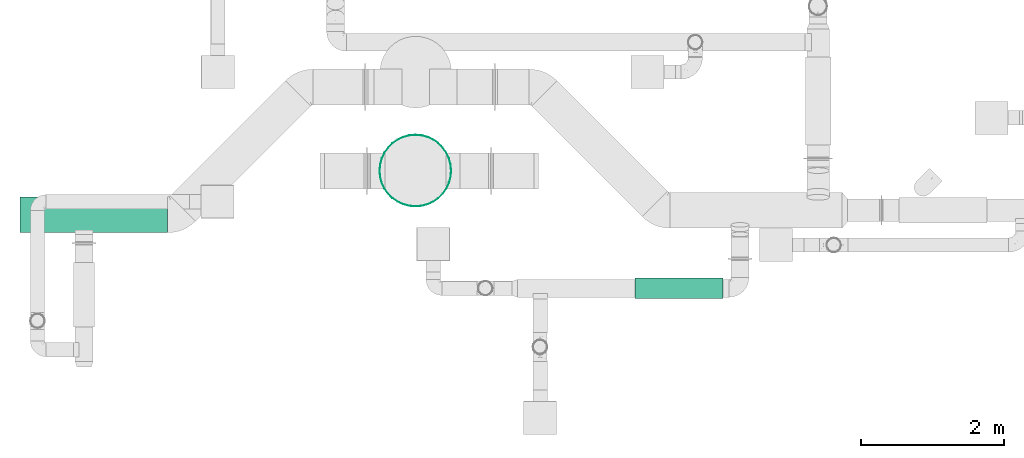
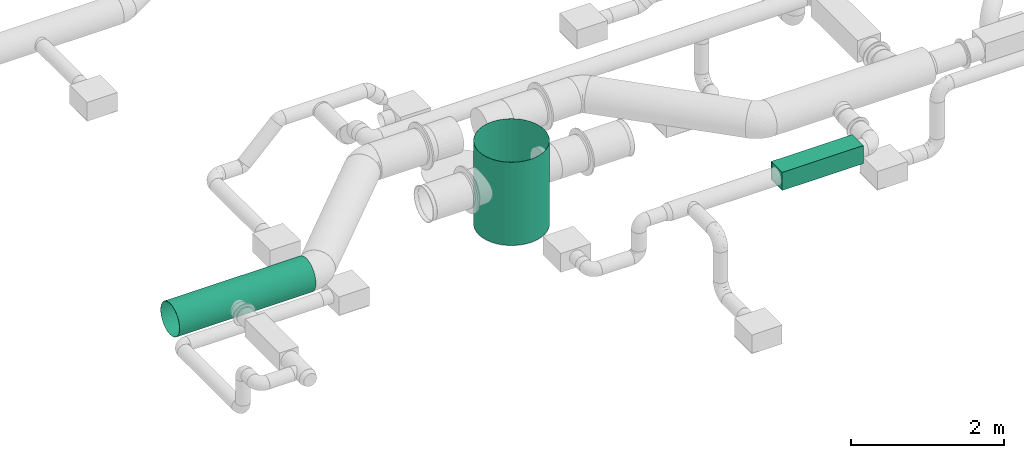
# One storey, part 26 of 31: 2 flow segments, 1 flow treatment device.
"""IFC2X3 building model written with IfcOpenShell, lengths in millimetres."""

import ifcopenshell
import ifcopenshell.guid

model = None  # the IFC model being written
_history = None  # IfcOwnerHistory: only IFC2X3 demands one
_inside = {}  # id of a spatial element -> (the spatial element, [elements in it])
_under = {}  # id of a project, library or spatial element -> (it, [spatial elements below it])
_declared = {}  # id of a project -> (the project, [libraries it declares])
_typed = {}  # id of a type object -> (the type object, [elements of that type])
_made_of = {}  # id of a material, layer set ... -> (it, [elements and type objects made of it])


def new_model(schema):
    """Start an empty IFC model of exactly this schema.

    Asked for "IFC4X3", IfcOpenShell would pick the latest addendum, in which some entities
    have other attributes; the version numbers below select the first issue.
    IFC2X3 requires an IfcOwnerHistory on every rooted entity: one is made here for all.
    """
    global model, _history
    if schema == "IFC4X3":
        model = ifcopenshell.file(schema_version=(4, 3, 0, 0))
    else:
        model = ifcopenshell.file(schema=schema)
    _inside.clear()
    _under.clear()
    _declared.clear()
    _typed.clear()
    _made_of.clear()
    _history = None
    if model.schema == "IFC2X3":
        org = make("IfcOrganization", Name="unknown")
        user = make(
            "IfcPersonAndOrganization",
            ThePerson=make("IfcPerson", FamilyName="unknown"),
            TheOrganization=org,
        )
        app = make(
            "IfcApplication",
            ApplicationDeveloper=org,
            Version="unknown",
            ApplicationFullName="unknown",
            ApplicationIdentifier="unknown",
        )
        _history = make(
            "IfcOwnerHistory",
            OwningUser=user,
            OwningApplication=app,
            ChangeAction="ADDED",
            CreationDate=0,
        )
    return model


def make(cls, **values):
    """One entity of the class cls with the attributes given. An attribute that is None is left unset."""
    return model.create_entity(
        cls, **{name: value for name, value in values.items() if value is not None}
    )


def entity(cls, *values):
    """Any entity or typed value of the class cls, its attributes in the order of the schema. None: left unset."""
    e = model.create_entity(cls)
    for i, value in enumerate(values):
        if value is not None:
            e[i] = value
    return e


def rooted(cls, **values):
    """An entity with a GlobalId (a new one), such as an element, a storey or a relation."""
    return make(cls, GlobalId=ifcopenshell.guid.new(), OwnerHistory=_history, **values)


def si_unit(unit_type, name, prefix=None):
    """IfcSIUnit, for example si_unit("LENGTHUNIT", "METRE", prefix="MILLI")."""
    return make("IfcSIUnit", UnitType=unit_type, Prefix=prefix, Name=name)


def converted_unit(unit_type, name, factor, base, dimensions=None, offset=None):
    """IfcConversionBasedUnit, such as the inch: factor (a typed value) times the base unit."""
    return make(
        "IfcConversionBasedUnit"
        if offset is None
        else "IfcConversionBasedUnitWithOffset",
        ConversionOffset=offset,
        Dimensions=None
        if dimensions is None
        else entity("IfcDimensionalExponents", *dimensions),
        UnitType=unit_type,
        Name=name,
        ConversionFactor=make(
            "IfcMeasureWithUnit", ValueComponent=factor, UnitComponent=base
        ),
    )


def derived_unit(unit_type, elements):
    """IfcDerivedUnit: a product of units, each with its exponent."""
    return make(
        "IfcDerivedUnit",
        Elements=[
            make("IfcDerivedUnitElement", Unit=unit, Exponent=power)
            for unit, power in elements
        ],
        UnitType=unit_type,
    )


def assignment(units):
    """IfcUnitAssignment: the units of a project."""
    return None if units is None else make("IfcUnitAssignment", Units=units)


def point(xyz):
    """IfcCartesianPoint."""
    return None if xyz is None else make("IfcCartesianPoint", Coordinates=xyz)


def direction(xyz):
    """IfcDirection."""
    return None if xyz is None else make("IfcDirection", DirectionRatios=xyz)


def frame(location, z_axis=None, x_axis=None):
    """IfcAxis2Placement3D, a coordinate frame: its origin and axes. An axis left out is left unset."""
    return make(
        "IfcAxis2Placement3D",
        Location=point(location),
        Axis=direction(z_axis),
        RefDirection=direction(x_axis),
    )


def origin_with_axes():
    """The frame at (0, 0, 0) with the z axis (0, 0, 1) and the x axis (1, 0, 0) written out."""
    return frame((0.0, 0.0, 0.0), z_axis=(0.0, 0.0, 1.0), x_axis=(1.0, 0.0, 0.0))


def place(relative_to, where):
    """IfcLocalPlacement: puts the frame where relative to a parent placement (None: the world)."""
    return make(
        "IfcLocalPlacement", PlacementRelTo=relative_to, RelativePlacement=where
    )


def context(
    kind, dimensions, precision=None, world=None, true_north=None, identifier=None
):
    """IfcGeometricRepresentationContext, for example the 3D "Model" context."""
    return make(
        "IfcGeometricRepresentationContext",
        ContextIdentifier=identifier,
        ContextType=kind,
        CoordinateSpaceDimension=dimensions,
        Precision=precision,
        WorldCoordinateSystem=world,
        TrueNorth=true_north,
    )


def subcontext(parent, identifier, kind, view, scale=None):
    """IfcGeometricRepresentationSubContext, for example "Body" below "Model"."""
    return make(
        "IfcGeometricRepresentationSubContext",
        ContextIdentifier=identifier,
        ContextType=kind,
        ParentContext=parent,
        TargetScale=scale,
        TargetView=view,
    )


def project(units=None, contexts=None):
    """IfcProject with its units and contexts."""
    return rooted(
        "IfcProject",
        Name="project",
        RepresentationContexts=contexts,
        UnitsInContext=assignment(units),
    )


def spatial(cls, under=None, at=None, **own):
    """A site, building, storey or space (cls), placed at a placement, below another one or the project."""
    s = rooted(cls, ObjectPlacement=at, **own)
    if under is not None:
        _under.setdefault(under.id(), (under, []))[1].append(s)
    return s


def faces_of(points, faces, orient=None, outer=None):
    """IfcFace entities. A face is a list of loops; a loop is a list of indices into points, from 0.

    orient and outer hold one flag for each loop. By default every Orientation is true, the
    first loop of a face is its IfcFaceOuterBound and the others are IfcFaceBound.
    """
    made = []
    for i, loops in enumerate(faces):
        bounds = []
        for j, loop in enumerate(loops):
            is_outer = j == 0 if outer is None else outer[i][j]
            bounds.append(
                make(
                    "IfcFaceOuterBound" if is_outer else "IfcFaceBound",
                    Bound=make("IfcPolyLoop", Polygon=[points[k] for k in loop]),
                    Orientation=True if orient is None else orient[i][j],
                )
            )
        made.append(make("IfcFace", Bounds=bounds))
    return made


def open_shell(faces, orient=None, outer=None):
    """The faces of one IfcOpenShell. surface_model builds it on its shared points."""
    return ("IfcOpenShell", faces, orient, outer)


def faceted_brep(points, faces, orient=None, outer=None, voids=None):
    """IfcFacetedBrep: a solid bounded by flat faces; with voids (closed shells), ...WithVoids."""
    shared = [point(p) for p in points]
    hull = make("IfcClosedShell", CfsFaces=faces_of(shared, faces, orient, outer))
    if voids is None:
        return make("IfcFacetedBrep", Outer=hull)
    return make(
        "IfcFacetedBrepWithVoids",
        Outer=hull,
        Voids=[
            make(cls, CfsFaces=faces_of(shared, fs, o, b)) for cls, fs, o, b in voids
        ],
    )


def surface_model(cls, points, shells):
    """IfcFaceBasedSurfaceModel or IfcShellBasedSurfaceModel (cls): surfaces that need not close."""
    shared = [point(p) for p in points]
    made = [make(c, CfsFaces=faces_of(shared, fs, o, b)) for c, fs, o, b in shells]
    if cls == "IfcFaceBasedSurfaceModel":
        return make(cls, FbsmFaces=made)
    return make(cls, SbsmBoundary=made)


def shape(context_of_items, identifier, shape_type, items):
    """IfcShapeRepresentation: the items that make up one representation, for example the "Body"."""
    return make(
        "IfcShapeRepresentation",
        ContextOfItems=context_of_items,
        RepresentationIdentifier=identifier,
        RepresentationType=shape_type,
        Items=items,
    )


def source(mapping_origin, context_of_items, identifier, shape_type, items):
    """IfcRepresentationMap: a shape defined once, which mapped items show again and again."""
    return make(
        "IfcRepresentationMap",
        MappingOrigin=mapping_origin,
        MappedRepresentation=shape(context_of_items, identifier, shape_type, items),
    )


def transform(
    local_origin,
    x_axis=None,
    y_axis=None,
    z_axis=None,
    scale=None,
    scale2=None,
    scale3=None,
    uniform=True,
):
    """IfcCartesianTransformationOperator3D, or its non-uniform kind. x_axis, y_axis, z_axis: its Axis1, 2, 3."""
    if uniform:
        return make(
            "IfcCartesianTransformationOperator3D",
            Axis1=direction(x_axis),
            Axis2=direction(y_axis),
            LocalOrigin=point(local_origin),
            Scale=scale,
            Axis3=direction(z_axis),
        )
    return make(
        "IfcCartesianTransformationOperator3DnonUniform",
        Axis1=direction(x_axis),
        Axis2=direction(y_axis),
        LocalOrigin=point(local_origin),
        Scale=scale,
        Axis3=direction(z_axis),
        Scale2=scale2,
        Scale3=scale3,
    )


def mapped(mapping_source, mapping_target):
    """IfcMappedItem: shows the shape of a source again, moved by a transform."""
    return make(
        "IfcMappedItem", MappingSource=mapping_source, MappingTarget=mapping_target
    )


def made_of(thing, what):
    """Note that an element or type object is made of a material, layer set ...; save() writes the relation."""
    if what is not None:
        _made_of.setdefault(what.id(), (what, []))[1].append(thing)
    return thing


def type_object(cls, material=None, **own):
    """A type object (cls), such as IfcWallType, which elements share."""
    return made_of(rooted(cls, **own), material)


def element(
    cls,
    number,
    at=None,
    inside=None,
    cuts=None,
    type_object=None,
    material=None,
    context=None,
    identifier="Body",
    shape_type=None,
    held_by="IfcProductDefinitionShape",
    body=None,
    shapes=None,
    **own,
):
    """One element of the class cls, such as IfcWall. Its Tag is "e" and its number.

    at: its placement. inside: the storey or other place that contains it. cuts: it is an
    opening in that element (IfcRelVoidsElement). A single representation is given by context,
    identifier, shape_type and body (its items); several are given by shapes. held_by: the class
    of the entity that holds the representations. save() writes the other relations.
    """
    e = rooted(cls, Tag="e%d" % number, ObjectPlacement=at, **own)
    if body is not None:
        shapes = [shape(context, identifier, shape_type, body)]
    if shapes is not None:
        e.Representation = make(held_by, Representations=shapes)
    if inside is not None:
        _inside.setdefault(inside.id(), (inside, []))[1].append(e)
    if cuts is not None:
        rooted(
            "IfcRelVoidsElement", RelatingBuildingElement=cuts, RelatedOpeningElement=e
        )
    if type_object is not None:
        _typed.setdefault(type_object.id(), (type_object, []))[1].append(e)
    return made_of(e, material)


def aggregate(whole, parts):
    """IfcRelAggregates: a whole, such as a stair, and the parts it consists of."""
    return rooted("IfcRelAggregates", RelatingObject=whole, RelatedObjects=parts)


def save(model, path):
    """Write the relations noted so far, then the file.

    IfcRelAggregates (storeys below a building ...), IfcRelContainedInSpatialStructure (elements
    in a storey), IfcRelDefinesByType, IfcRelAssociatesMaterial and IfcRelDeclares: one each for
    every whole, place, type object, material and project.
    """
    for whole, parts in _under.values():
        aggregate(whole, parts)
    for where, things in _inside.values():
        rooted(
            "IfcRelContainedInSpatialStructure",
            RelatedElements=things,
            RelatingStructure=where,
        )
    for kind, things in _typed.values():
        rooted("IfcRelDefinesByType", RelatedObjects=things, RelatingType=kind)
    for what, things in _made_of.values():
        rooted("IfcRelAssociatesMaterial", RelatedObjects=things, RelatingMaterial=what)
    for by, libraries in _declared.values():
        rooted("IfcRelDeclares", RelatingContext=by, RelatedDefinitions=libraries)
    model.write(path)


model = new_model("IFC2X3")

# Units and contexts
model_context = context("Model", 3, precision=0.01, world=frame((0.0, 4.29681676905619e-09, 0.0)), true_north=direction((4.01073788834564e-13, 1.0)))
plan_context = context("Plan", 3, precision=0.01, world=frame((0.0, 4.29681676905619e-09, 0.0)), true_north=direction((4.01073788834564e-13, 1.0)))
body_context = subcontext(model_context, "Body", "Model", "MODEL_VIEW")
ifc_project = project(units=[converted_unit("PLANEANGLEUNIT", "DEGREE", entity("IfcPositiveLengthMeasure", 0.0174532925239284), si_unit("PLANEANGLEUNIT", "RADIAN"), dimensions=[0, 0, 0, 0, 0, 0, 0]), si_unit("AREAUNIT", "SQUARE_METRE"), si_unit("LENGTHUNIT", "METRE", prefix="MILLI"), si_unit("MASSUNIT", "GRAM", prefix="KILO"), si_unit("POWERUNIT", "WATT"), si_unit("PRESSUREUNIT", "PASCAL", prefix="KILO"), si_unit("FORCEUNIT", "NEWTON", prefix="KILO"), si_unit("ELECTRICVOLTAGEUNIT", "VOLT"), si_unit("ELECTRICCURRENTUNIT", "AMPERE"), si_unit("THERMODYNAMICTEMPERATUREUNIT", "DEGREE_CELSIUS"), si_unit("TIMEUNIT", "SECOND"), si_unit("VOLUMEUNIT", "CUBIC_METRE"), derived_unit("LINEARVELOCITYUNIT", [(si_unit("LENGTHUNIT", "METRE"), 1), (si_unit("TIMEUNIT", "SECOND"), -1)]), derived_unit("VOLUMETRICFLOWRATEUNIT", [(si_unit("VOLUMEUNIT", "CUBIC_METRE"), 1), (si_unit("TIMEUNIT", "SECOND"), -1)]), derived_unit("THERMALTRANSMITTANCEUNIT", [(si_unit("POWERUNIT", "WATT"), 1), (si_unit("THERMODYNAMICTEMPERATUREUNIT", "KELVIN"), -1), (si_unit("AREAUNIT", "SQUARE_METRE"), -1)]), derived_unit("SOUNDPRESSUREUNIT", [(si_unit("PRESSUREUNIT", "PASCAL"), 1)])], contexts=[model_context, plan_context])

# Site, building, storey
site_placement = place(None, frame((0.0, -4.29681676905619e-09, 0.0), z_axis=(0.0, 0.0, 1.0), x_axis=(1.0, 0.0, 0.0)))
site = spatial("IfcSite", under=ifc_project, at=site_placement, CompositionType="ELEMENT")
building_placement = place(site_placement, frame((0.0, 4.29681676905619e-09, 0.0), z_axis=(0.0, 0.0, 1.0), x_axis=(1.0, 0.0, 0.0)))
building = spatial("IfcBuilding", under=site, at=building_placement, Name="mc-building", CompositionType="ELEMENT")
storey_placement = place(building_placement, frame((0.0, 0.0, 210900.0), z_axis=(0.0, 0.0, 1.0), x_axis=(1.0, 0.0, 0.0)))
storey = spatial("IfcBuildingStorey", under=building, at=storey_placement, Name="Nivå F", CompositionType="ELEMENT", Elevation=210900.0)

# Flow treatment device
duct_silencer_type = type_object("IfcDuctSilencerType", Name="LKR-250-1200", PredefinedType="ROUND")
shared_shape = source(origin_with_axes(), body_context, "Body", "SurfaceModel", [
    surface_model("IfcShellBasedSurfaceModel", [(-615.00003, -145.0, -145.1), (-615.00003, 145.0, -145.1), (615.00003, 145.0, -145.1), (615.00003, -145.0, -145.1), (615.00003, -145.0, -144.9), (615.00003, 145.0, -144.9), (-615.00003, 145.0, -144.9), (-615.00003, -145.0, -144.9), (-615.00003, -145.0, 144.9), (-615.00003, 145.0, 144.9), (615.00003, 145.0, 144.9), (615.00003, -145.0, 144.9), (615.00003, -145.0, 145.1), (615.00003, 145.0, 145.1), (-615.00003, 145.0, 145.1), (-615.00003, -145.0, 145.1), (-615.00003, 144.9, -145.0), (615.00003, 144.9, -145.0), (615.00003, 144.9, 145.0), (-615.00003, 144.9, 145.0), (-615.00003, 145.1, 145.0), (615.00003, 145.1, 145.0), (615.00003, 145.1, -145.0), (-615.00003, 145.1, -145.0), (-615.00003, -145.1, -145.0), (615.00003, -145.1, -145.0), (615.00003, -145.1, 145.0), (-615.00003, -145.1, 145.0), (-615.00003, -144.9, 145.0), (615.00003, -144.9, 145.0), (615.00003, -144.9, -145.0), (-615.00003, -144.9, -145.0), (604.9, 144.89999, 144.9), (604.9, 144.89999, -144.89999), (604.9, -144.9, -144.89999), (604.9, -144.9, 144.9), (605.09998, -144.9, 144.9), (605.09998, -144.9, -144.89999), (605.09998, 144.89999, 144.9), (605.09998, 144.89999, -144.89999), (-605.09998, 144.89999, 144.9), (-605.09998, 144.89999, -144.89999), (-605.09998, -144.9, -144.89999), (-605.09998, -144.9, 144.9), (-604.9, -144.9, 144.9), (-604.9, -144.9, -144.89999), (-604.9, 144.89999, 144.9), (-604.9, 144.89999, -144.89999)], [open_shell([[[0, 1, 2]], [[2, 3, 0]], [[4, 5, 6]], [[6, 7, 4]], [[1, 0, 7]], [[7, 6, 1]], [[0, 3, 7]], [[4, 7, 3]], [[3, 2, 5]], [[5, 4, 3]], [[2, 1, 5]], [[6, 5, 1]], [[8, 9, 10]], [[10, 11, 8]], [[12, 13, 14]], [[14, 15, 12]], [[9, 8, 15]], [[15, 14, 9]], [[8, 11, 15]], [[12, 15, 11]], [[11, 10, 13]], [[13, 12, 11]], [[10, 9, 13]], [[14, 13, 9]], [[16, 17, 18]], [[18, 19, 16]], [[20, 21, 22]], [[22, 23, 20]], [[18, 17, 21]], [[22, 21, 17]], [[19, 18, 20]], [[21, 20, 18]], [[16, 19, 23]], [[20, 23, 19]], [[17, 16, 22]], [[23, 22, 16]], [[24, 25, 26]], [[26, 27, 24]], [[28, 29, 30]], [[30, 31, 28]], [[26, 25, 29]], [[30, 29, 25]], [[27, 26, 28]], [[29, 28, 26]], [[24, 27, 31]], [[28, 31, 27]], [[25, 24, 30]], [[31, 30, 24]], [[32, 33, 34]], [[34, 35, 32]], [[36, 37, 38]], [[39, 38, 37]], [[34, 33, 37]], [[39, 37, 33]], [[35, 34, 37]], [[37, 36, 35]], [[32, 35, 36]], [[36, 38, 32]], [[33, 32, 39]], [[38, 39, 32]], [[40, 41, 42]], [[42, 43, 40]], [[44, 45, 46]], [[47, 46, 45]], [[42, 41, 45]], [[47, 45, 41]], [[43, 42, 45]], [[45, 44, 43]], [[40, 43, 44]], [[44, 46, 40]], [[41, 40, 47]], [[46, 47, 40]]])]),
])
flow_treatment_device_placement = place(storey_placement, frame((723639.83655, 437405.213, 3855.0), z_axis=(0.0, 0.0, 1.0), x_axis=(-1.0, 0.0, 0.0)))
element("IfcFlowTreatmentDevice", 1, at=flow_treatment_device_placement, inside=storey, type_object=duct_silencer_type, Name="LKR-250-1200", context=body_context, shape_type="MappedRepresentation", body=[
    mapped(shared_shape, transform((0.0, 0.0, 0.0), scale=1.0)),
])

# Flow segments
duct_segment_type = type_object("IfcDuctSegmentType", Name="KK001T - Spiro kanaler, Forsinket stål", PredefinedType="RIGIDSEGMENT")
flow_segment_1_placement = place(storey_placement, frame((719961.47564, 439048.14298, 3170.0), z_axis=(1.0, 0.0, 0.0), x_axis=(0.0, 0.0, 1.0)))
element("IfcFlowSegment", 2, at=flow_segment_1_placement, inside=storey, type_object=duct_segment_type, Name="KK001T - Spiro kanaler, Forsinket stål", context=body_context, shape_type="Brep", body=[
    faceted_brep([(1330.0, 498.0, 0.0), (1330.0, 490.43426100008, -86.4767924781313), (0.0, 490.43426100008, -86.4767924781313), (0.0, 498.0, 0.0), (1330.0, 467.966925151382, -170.326031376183), (0.0, 467.966925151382, -170.326031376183), (1330.0, 431.28065108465, -249.0), (0.0, 431.28065108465, -249.0), (1330.0, 381.490132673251, -320.108229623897), (0.0, 381.490132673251, -320.108229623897), (1330.0, 320.108229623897, -381.490132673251), (0.0, 320.108229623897, -381.490132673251), (1330.0, 249.0, -431.28065108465), (0.0, 249.0, -431.28065108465), (1330.0, 170.326031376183, -467.966925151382), (0.0, 170.326031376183, -467.966925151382), (1330.0, 86.4767924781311, -490.43426100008), (0.0, 86.4767924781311, -490.43426100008), (1330.0, -9.14811158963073e-14, -498.0), (0.0, -9.14811158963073e-14, -498.0), (1330.0, -86.4767924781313, -490.43426100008), (0.0, -86.4767924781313, -490.43426100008), (1330.0, -170.326031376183, -467.966925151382), (0.0, -170.326031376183, -467.966925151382), (1330.0, -249.0, -431.28065108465), (0.0, -249.0, -431.28065108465), (1330.0, -320.108229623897, -381.490132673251), (0.0, -320.108229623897, -381.490132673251), (1330.0, -381.490132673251, -320.108229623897), (0.0, -381.490132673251, -320.108229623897), (1330.0, -431.280651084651, -249.0), (0.0, -431.280651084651, -249.0), (1330.0, -467.966925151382, -170.326031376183), (0.0, -467.966925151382, -170.326031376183), (1330.0, -490.43426100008, -86.4767924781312), (0.0, -490.43426100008, -86.4767924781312), (1330.0, -498.0, 6.09874105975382e-14), (0.0, -498.0, 6.09874105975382e-14), (1330.0, -490.43426100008, 86.4767924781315), (0.0, -490.43426100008, 86.4767924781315), (1330.0, -467.966925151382, 170.326031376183), (0.0, -467.966925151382, 170.326031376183), (1330.0, -431.28065108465, 249.0), (0.0, -431.28065108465, 249.0), (1330.0, -381.490132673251, 320.108229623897), (0.0, -381.490132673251, 320.108229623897), (1330.0, -320.108229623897, 381.490132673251), (0.0, -320.108229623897, 381.490132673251), (1330.0, -249.0, 431.28065108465), (0.0, -249.0, 431.28065108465), (1330.0, -170.326031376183, 467.966925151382), (0.0, -170.326031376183, 467.966925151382), (1330.0, -86.4767924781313, 490.43426100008), (0.0, -86.4767924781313, 490.43426100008), (1330.0, 3.04937052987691e-14, 498.0), (0.0, 3.04937052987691e-14, 498.0), (1330.0, 86.4767924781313, 490.43426100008), (0.0, 86.4767924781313, 490.43426100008), (1330.0, 170.326031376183, 467.966925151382), (0.0, 170.326031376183, 467.966925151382), (1330.0, 249.0, 431.28065108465), (0.0, 249.0, 431.28065108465), (1330.0, 320.108229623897, 381.490132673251), (0.0, 320.108229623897, 381.490132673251), (1330.0, 381.490132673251, 320.108229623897), (0.0, 381.490132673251, 320.108229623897), (1330.0, 431.28065108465, 249.0), (0.0, 431.28065108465, 249.0), (1330.0, 467.966925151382, 170.326031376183), (0.0, 467.966925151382, 170.326031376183), (1330.0, 490.43426100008, 86.4767924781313), (0.0, 490.43426100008, 86.4767924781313), (1330.0, 492.403876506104, -86.8240888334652), (1330.0, 500.0, 0.0), (0.0, 500.0, 0.0), (0.0, 492.403876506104, -86.8240888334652), (1330.0, 492.403876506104, 86.8240888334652), (0.0, 492.403876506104, 86.8240888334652), (1330.0, 469.846310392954, 171.010071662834), (0.0, 469.846310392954, 171.010071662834), (1330.0, 433.012701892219, 250.0), (0.0, 433.012701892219, 250.0), (1330.0, 383.022221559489, 321.39380484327), (0.0, 383.022221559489, 321.39380484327), (1330.0, 321.39380484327, 383.022221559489), (0.0, 321.39380484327, 383.022221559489), (1330.0, 250.0, 433.012701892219), (0.0, 250.0, 433.012701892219), (1330.0, 171.010071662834, 469.846310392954), (0.0, 171.010071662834, 469.846310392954), (1330.0, 86.8240888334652, 492.403876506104), (0.0, 86.8240888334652, 492.403876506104), (1330.0, 3.06161699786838e-14, 500.0), (0.0, 3.06161699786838e-14, 500.0), (1330.0, -86.8240888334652, 492.403876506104), (0.0, -86.8240888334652, 492.403876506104), (1330.0, -171.010071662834, 469.846310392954), (0.0, -171.010071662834, 469.846310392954), (1330.0, -250.0, 433.012701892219), (0.0, -250.0, 433.012701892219), (1330.0, -321.39380484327, 383.022221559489), (0.0, -321.39380484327, 383.022221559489), (1330.0, -383.022221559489, 321.39380484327), (0.0, -383.022221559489, 321.39380484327), (1330.0, -433.012701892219, 250.0), (0.0, -433.012701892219, 250.0), (1330.0, -469.846310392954, 171.010071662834), (0.0, -469.846310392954, 171.010071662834), (1330.0, -492.403876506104, 86.8240888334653), (0.0, -492.403876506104, 86.8240888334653), (1330.0, -500.0, 6.12323399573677e-14), (0.0, -500.0, 6.12323399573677e-14), (1330.0, -492.403876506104, -86.824088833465), (0.0, -492.403876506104, -86.824088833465), (1330.0, -469.846310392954, -171.010071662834), (0.0, -469.846310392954, -171.010071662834), (1330.0, -433.012701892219, -250.0), (0.0, -433.012701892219, -250.0), (1330.0, -383.022221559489, -321.39380484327), (0.0, -383.022221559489, -321.39380484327), (1330.0, -321.39380484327, -383.022221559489), (0.0, -321.39380484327, -383.022221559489), (1330.0, -250.0, -433.012701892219), (0.0, -250.0, -433.012701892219), (1330.0, -171.010071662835, -469.846310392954), (0.0, -171.010071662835, -469.846310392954), (1330.0, -86.8240888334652, -492.403876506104), (0.0, -86.8240888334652, -492.403876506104), (1330.0, -9.18485099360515e-14, -500.0), (0.0, -9.18485099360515e-14, -500.0), (1330.0, 86.824088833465, -492.403876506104), (0.0, 86.824088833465, -492.403876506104), (1330.0, 171.010071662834, -469.846310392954), (0.0, 171.010071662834, -469.846310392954), (1330.0, 250.0, -433.012701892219), (0.0, 250.0, -433.012701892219), (1330.0, 321.39380484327, -383.022221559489), (0.0, 321.39380484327, -383.022221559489), (1330.0, 383.022221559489, -321.39380484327), (0.0, 383.022221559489, -321.39380484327), (1330.0, 433.012701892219, -250.0), (0.0, 433.012701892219, -250.0), (1330.0, 469.846310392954, -171.010071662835), (0.0, 469.846310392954, -171.010071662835)], [[[0, 1, 2, 3]], [[1, 4, 5, 2]], [[4, 6, 7, 5]], [[6, 8, 9, 7]], [[8, 10, 11, 9]], [[10, 12, 13, 11]], [[12, 14, 15, 13]], [[14, 16, 17, 15]], [[16, 18, 19, 17]], [[18, 20, 21, 19]], [[20, 22, 23, 21]], [[22, 24, 25, 23]], [[24, 26, 27, 25]], [[26, 28, 29, 27]], [[28, 30, 31, 29]], [[30, 32, 33, 31]], [[32, 34, 35, 33]], [[34, 36, 37, 35]], [[36, 38, 39, 37]], [[38, 40, 41, 39]], [[40, 42, 43, 41]], [[42, 44, 45, 43]], [[44, 46, 47, 45]], [[46, 48, 49, 47]], [[48, 50, 51, 49]], [[50, 52, 53, 51]], [[52, 54, 55, 53]], [[54, 56, 57, 55]], [[56, 58, 59, 57]], [[58, 60, 61, 59]], [[60, 62, 63, 61]], [[62, 64, 65, 63]], [[64, 66, 67, 65]], [[66, 68, 69, 67]], [[68, 70, 71, 69]], [[70, 0, 3, 71]], [[72, 73, 74, 75]], [[73, 76, 77, 74]], [[76, 78, 79, 77]], [[78, 80, 81, 79]], [[80, 82, 83, 81]], [[82, 84, 85, 83]], [[84, 86, 87, 85]], [[86, 88, 89, 87]], [[88, 90, 91, 89]], [[90, 92, 93, 91]], [[92, 94, 95, 93]], [[94, 96, 97, 95]], [[96, 98, 99, 97]], [[98, 100, 101, 99]], [[100, 102, 103, 101]], [[102, 104, 105, 103]], [[104, 106, 107, 105]], [[106, 108, 109, 107]], [[108, 110, 111, 109]], [[110, 112, 113, 111]], [[112, 114, 115, 113]], [[114, 116, 117, 115]], [[116, 118, 119, 117]], [[118, 120, 121, 119]], [[120, 122, 123, 121]], [[122, 124, 125, 123]], [[124, 126, 127, 125]], [[126, 128, 129, 127]], [[128, 130, 131, 129]], [[130, 132, 133, 131]], [[132, 134, 135, 133]], [[134, 136, 137, 135]], [[136, 138, 139, 137]], [[138, 140, 141, 139]], [[140, 142, 143, 141]], [[142, 72, 75, 143]], [[75, 74, 77, 79, 81, 83, 85, 87, 89, 91, 93, 95, 97, 99, 101, 103, 105, 107, 109, 111, 113, 115, 117, 119, 121, 123, 125, 127, 129, 131, 133, 135, 137, 139, 141, 143], [3, 2, 5, 7, 9, 11, 13, 15, 17, 19, 21, 23, 25, 27, 29, 31, 33, 35, 37, 39, 41, 43, 45, 47, 49, 51, 53, 55, 57, 59, 61, 63, 65, 67, 69, 71]], [[142, 140, 138, 136, 134, 132, 130, 128, 126, 124, 122, 120, 118, 116, 114, 112, 110, 108, 106, 104, 102, 100, 98, 96, 94, 92, 90, 88, 86, 84, 82, 80, 78, 76, 73, 72], [70, 68, 66, 64, 62, 60, 58, 56, 54, 52, 50, 48, 46, 44, 42, 40, 38, 36, 34, 32, 30, 28, 26, 24, 22, 20, 18, 16, 14, 12, 10, 8, 6, 4, 1, 0]]], orient=[[False], [False], [False], [False], [False], [False], [False], [False], [False], [False], [False], [False], [False], [False], [False], [False], [False], [False], [False], [False], [False], [False], [False], [False], [False], [False], [False], [False], [False], [False], [False], [False], [False], [False], [False], [False], [False], [False], [False], [False], [False], [False], [False], [False], [False], [False], [False], [False], [False], [False], [False], [False], [False], [False], [False], [False], [False], [False], [False], [False], [False], [False], [False], [False], [False], [False], [False], [False], [False], [False], [False], [False], [False, False], [False, False]]),
])
flow_segment_2_placement = place(storey_placement, frame((711000.69609, 438431.78045, 3950.0), z_axis=(0.0, 0.0, 1.0), x_axis=(1.0, 0.0, 0.0)))
element("IfcFlowSegment", 3, at=flow_segment_2_placement, inside=storey, type_object=duct_segment_type, Name="KK001T - Spiro kanaler, Forsinket stål", context=body_context, shape_type="Brep", body=[
    faceted_brep([(3437.29140999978, 244.232322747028, -43.0647480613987), (3437.29140999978, 248.0, 0.0), (5500.7, 248.0, 0.0), (5500.7, 244.232322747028, -43.0647480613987), (3437.29140999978, 233.043769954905, -84.820995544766), (5500.7, 233.043769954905, -84.820995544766), (3437.29140999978, 214.774300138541, -124.0), (5500.7, 214.774300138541, -124.0), (3437.29140999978, 189.979021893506, -159.411327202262), (5500.7, 189.979021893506, -159.411327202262), (3437.29140999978, 159.411327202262, -189.979021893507), (5500.7, 159.411327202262, -189.979021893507), (3437.29140999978, 124.0, -214.774300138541), (5500.7, 124.0, -214.774300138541), (3437.29140999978, 84.8209955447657, -233.043769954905), (5500.7, 84.8209955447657, -233.043769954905), (3437.29140999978, 43.0647480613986, -244.232322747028), (5500.7, 43.0647480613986, -244.232322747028), (3437.29140999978, -4.55568609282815e-14, -248.0), (5500.7, -4.55568609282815e-14, -248.0), (3437.29140999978, -43.0647480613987, -244.232322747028), (5500.7, -43.0647480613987, -244.232322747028), (3437.29140999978, -84.820995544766, -233.043769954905), (5500.7, -84.820995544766, -233.043769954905), (3437.29140999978, -124.0, -214.774300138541), (5500.7, -124.0, -214.774300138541), (3437.29140999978, -159.411327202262, -189.979021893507), (5500.7, -159.411327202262, -189.979021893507), (3437.29140999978, -189.979021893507, -159.411327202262), (5500.7, -189.979021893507, -159.411327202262), (3437.29140999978, -214.774300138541, -124.0), (5500.7, -214.774300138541, -124.0), (3437.29140999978, -233.043769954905, -84.8209955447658), (5500.7, -233.043769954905, -84.8209955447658), (3437.29140999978, -244.232322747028, -43.0647480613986), (5500.7, -244.232322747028, -43.0647480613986), (3437.29140999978, -248.0, 3.03712406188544e-14), (5500.7, -248.0, 3.03712406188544e-14), (3437.29140999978, -244.232322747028, 43.0647480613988), (5500.7, -244.232322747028, 43.0647480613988), (3437.29140999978, -233.043769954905, 84.8209955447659), (5500.7, -233.043769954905, 84.8209955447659), (3437.29140999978, -214.774300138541, 124.0), (5500.7, -214.774300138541, 124.0), (3437.29140999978, -189.979021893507, 159.411327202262), (5500.7, -189.979021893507, 159.411327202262), (3437.29140999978, -159.411327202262, 189.979021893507), (5500.7, -159.411327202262, 189.979021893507), (3437.29140999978, -124.0, 214.774300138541), (5500.7, -124.0, 214.774300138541), (3437.29140999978, -84.8209955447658, 233.043769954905), (5500.7, -84.8209955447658, 233.043769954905), (3437.29140999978, -43.0647480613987, 244.232322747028), (5500.7, -43.0647480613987, 244.232322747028), (3437.29140999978, 1.51856203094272e-14, 248.0), (5500.7, 1.51856203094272e-14, 248.0), (3437.29140999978, 43.0647480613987, 244.232322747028), (5500.7, 43.0647480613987, 244.232322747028), (3437.29140999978, 84.8209955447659, 233.043769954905), (5500.7, 84.8209955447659, 233.043769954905), (3437.29140999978, 124.0, 214.774300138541), (5500.7, 124.0, 214.774300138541), (3437.29140999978, 159.411327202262, 189.979021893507), (5500.7, 159.411327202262, 189.979021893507), (3437.29140999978, 189.979021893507, 159.411327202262), (5500.7, 189.979021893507, 159.411327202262), (3437.29140999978, 214.774300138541, 124.0), (5500.7, 214.774300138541, 124.0), (3437.29140999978, 233.043769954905, 84.8209955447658), (5500.7, 233.043769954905, 84.8209955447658), (3437.29140999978, 244.232322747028, 43.0647480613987), (5500.7, 244.232322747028, 43.0647480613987), (3437.29140999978, 250.0, 0.0), (3437.29140999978, 246.201938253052, -43.4120444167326), (5500.7, 246.201938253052, -43.4120444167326), (5500.7, 250.0, 0.0), (3437.29140999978, 246.201938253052, 43.4120444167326), (5500.7, 246.201938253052, 43.4120444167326), (3437.29140999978, 234.923155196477, 85.5050358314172), (5500.7, 234.923155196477, 85.5050358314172), (3437.29140999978, 216.50635094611, 125.0), (5500.7, 216.50635094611, 125.0), (3437.29140999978, 191.511110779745, 160.696902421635), (5500.7, 191.511110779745, 160.696902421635), (3437.29140999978, 160.696902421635, 191.511110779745), (5500.7, 160.696902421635, 191.511110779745), (3437.29140999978, 125.0, 216.50635094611), (5500.7, 125.0, 216.50635094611), (3437.29140999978, 85.5050358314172, 234.923155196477), (5500.7, 85.5050358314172, 234.923155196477), (3437.29140999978, 43.4120444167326, 246.201938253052), (5500.7, 43.4120444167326, 246.201938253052), (3437.29140999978, 1.53080849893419e-14, 250.0), (5500.7, 1.53080849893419e-14, 250.0), (3437.29140999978, -43.4120444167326, 246.201938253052), (5500.7, -43.4120444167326, 246.201938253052), (3437.29140999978, -85.5050358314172, 234.923155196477), (5500.7, -85.5050358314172, 234.923155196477), (3437.29140999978, -125.0, 216.50635094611), (5500.7, -125.0, 216.50635094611), (3437.29140999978, -160.696902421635, 191.511110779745), (5500.7, -160.696902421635, 191.511110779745), (3437.29140999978, -191.511110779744, 160.696902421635), (5500.7, -191.511110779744, 160.696902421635), (3437.29140999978, -216.50635094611, 125.0), (5500.7, -216.50635094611, 125.0), (3437.29140999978, -234.923155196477, 85.5050358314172), (5500.7, -234.923155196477, 85.5050358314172), (3437.29140999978, -246.201938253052, 43.4120444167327), (5500.7, -246.201938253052, 43.4120444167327), (3437.29140999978, -250.0, 3.06161699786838e-14), (5500.7, -250.0, 3.06161699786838e-14), (3437.29140999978, -246.201938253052, -43.4120444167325), (5500.7, -246.201938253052, -43.4120444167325), (3437.29140999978, -234.923155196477, -85.5050358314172), (5500.7, -234.923155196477, -85.5050358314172), (3437.29140999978, -216.50635094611, -125.0), (5500.7, -216.50635094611, -125.0), (3437.29140999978, -191.511110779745, -160.696902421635), (5500.7, -191.511110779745, -160.696902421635), (3437.29140999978, -160.696902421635, -191.511110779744), (5500.7, -160.696902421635, -191.511110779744), (3437.29140999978, -125.0, -216.50635094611), (5500.7, -125.0, -216.50635094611), (3437.29140999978, -85.5050358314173, -234.923155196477), (5500.7, -85.5050358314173, -234.923155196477), (3437.29140999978, -43.4120444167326, -246.201938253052), (5500.7, -43.4120444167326, -246.201938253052), (3437.29140999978, -4.59242549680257e-14, -250.0), (5500.7, -4.59242549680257e-14, -250.0), (3437.29140999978, 43.4120444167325, -246.201938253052), (5500.7, 43.4120444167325, -246.201938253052), (3437.29140999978, 85.505035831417, -234.923155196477), (5500.7, 85.505035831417, -234.923155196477), (3437.29140999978, 125.0, -216.50635094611), (5500.7, 125.0, -216.50635094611), (3437.29140999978, 160.696902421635, -191.511110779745), (5500.7, 160.696902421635, -191.511110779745), (3437.29140999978, 191.511110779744, -160.696902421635), (5500.7, 191.511110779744, -160.696902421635), (3437.29140999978, 216.50635094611, -125.0), (5500.7, 216.50635094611, -125.0), (3437.29140999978, 234.923155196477, -85.5050358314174), (5500.7, 234.923155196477, -85.5050358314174)], [[[0, 1, 2, 3]], [[4, 0, 3, 5]], [[6, 4, 5, 7]], [[8, 6, 7, 9]], [[10, 8, 9, 11]], [[12, 10, 11, 13]], [[14, 12, 13, 15]], [[16, 14, 15, 17]], [[18, 16, 17, 19]], [[20, 18, 19, 21]], [[22, 20, 21, 23]], [[24, 22, 23, 25]], [[26, 24, 25, 27]], [[28, 26, 27, 29]], [[30, 28, 29, 31]], [[32, 30, 31, 33]], [[34, 32, 33, 35]], [[36, 34, 35, 37]], [[38, 36, 37, 39]], [[40, 38, 39, 41]], [[42, 40, 41, 43]], [[44, 42, 43, 45]], [[46, 44, 45, 47]], [[48, 46, 47, 49]], [[50, 48, 49, 51]], [[52, 50, 51, 53]], [[54, 52, 53, 55]], [[56, 54, 55, 57]], [[58, 56, 57, 59]], [[60, 58, 59, 61]], [[62, 60, 61, 63]], [[64, 62, 63, 65]], [[66, 64, 65, 67]], [[68, 66, 67, 69]], [[70, 68, 69, 71]], [[1, 70, 71, 2]], [[72, 73, 74, 75]], [[76, 72, 75, 77]], [[78, 76, 77, 79]], [[80, 78, 79, 81]], [[82, 80, 81, 83]], [[84, 82, 83, 85]], [[86, 84, 85, 87]], [[88, 86, 87, 89]], [[90, 88, 89, 91]], [[92, 90, 91, 93]], [[94, 92, 93, 95]], [[96, 94, 95, 97]], [[98, 96, 97, 99]], [[100, 98, 99, 101]], [[102, 100, 101, 103]], [[104, 102, 103, 105]], [[106, 104, 105, 107]], [[108, 106, 107, 109]], [[110, 108, 109, 111]], [[112, 110, 111, 113]], [[114, 112, 113, 115]], [[116, 114, 115, 117]], [[118, 116, 117, 119]], [[120, 118, 119, 121]], [[122, 120, 121, 123]], [[124, 122, 123, 125]], [[126, 124, 125, 127]], [[128, 126, 127, 129]], [[130, 128, 129, 131]], [[132, 130, 131, 133]], [[134, 132, 133, 135]], [[136, 134, 135, 137]], [[138, 136, 137, 139]], [[140, 138, 139, 141]], [[142, 140, 141, 143]], [[73, 142, 143, 74]], [[75, 74, 143, 141, 139, 137, 135, 133, 131, 129, 127, 125, 123, 121, 119, 117, 115, 113, 111, 109, 107, 105, 103, 101, 99, 97, 95, 93, 91, 89, 87, 85, 83, 81, 79, 77], [2, 71, 69, 67, 65, 63, 61, 59, 57, 55, 53, 51, 49, 47, 45, 43, 41, 39, 37, 35, 33, 31, 29, 27, 25, 23, 21, 19, 17, 15, 13, 11, 9, 7, 5, 3]], [[76, 78, 80, 82, 84, 86, 88, 90, 92, 94, 96, 98, 100, 102, 104, 106, 108, 110, 112, 114, 116, 118, 120, 122, 124, 126, 128, 130, 132, 134, 136, 138, 140, 142, 73, 72], [4, 6, 8, 10, 12, 14, 16, 18, 20, 22, 24, 26, 28, 30, 32, 34, 36, 38, 40, 42, 44, 46, 48, 50, 52, 54, 56, 58, 60, 62, 64, 66, 68, 70, 1, 0]]], orient=[[False], [False], [False], [False], [False], [False], [False], [False], [False], [False], [False], [False], [False], [False], [False], [False], [False], [False], [False], [False], [False], [False], [False], [False], [False], [False], [False], [False], [False], [False], [False], [False], [False], [False], [False], [False], [False], [False], [False], [False], [False], [False], [False], [False], [False], [False], [False], [False], [False], [False], [False], [False], [False], [False], [False], [False], [False], [False], [False], [False], [False], [False], [False], [False], [False], [False], [False], [False], [False], [False], [False], [False], [False, False], [False, False]]),
])

save(model, "model.ifc")
